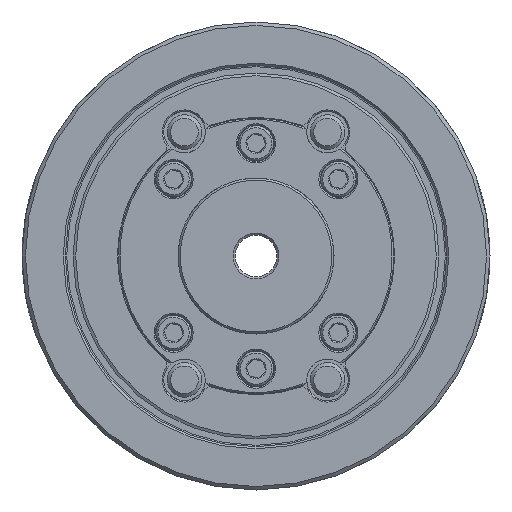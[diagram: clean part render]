
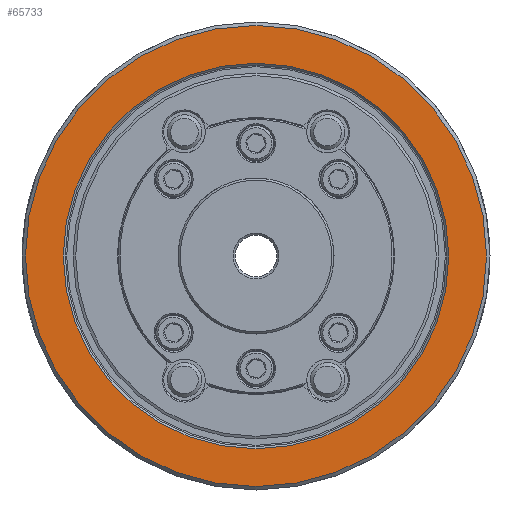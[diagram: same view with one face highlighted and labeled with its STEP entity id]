
A CAD part, left-side view. The second image highlights one B-rep face of the part: STEP entity #65733.
In plain terms, the highlighted planar face has unit normal (-1, 0, 0).
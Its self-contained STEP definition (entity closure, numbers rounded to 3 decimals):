
#1295 = CIRCLE ( 'NONE', #48478, 55.6 ) ;
#1601 = ORIENTED_EDGE ( 'NONE', *, *, #44136, .T. ) ;
#3773 = DIRECTION ( 'NONE',  ( 1., 0., 0. ) ) ;
#7657 = AXIS2_PLACEMENT_3D ( 'NONE', #26669, #16371, #63080 ) ;
#8949 = CARTESIAN_POINT ( 'NONE',  ( -60., 0., 0. ) ) ;
#12144 = VERTEX_POINT ( 'NONE', #48893 ) ;
#14664 = DIRECTION ( 'NONE',  ( 0., 0., -1. ) ) ;
#15646 = EDGE_LOOP ( 'NONE', ( #53505 ) ) ;
#16371 = DIRECTION ( 'NONE',  ( 1., 0., 0. ) ) ;
#19831 = CARTESIAN_POINT ( 'NONE',  ( -60., 0., 0. ) ) ;
#26669 = CARTESIAN_POINT ( 'NONE',  ( -60., -55.6, 0. ) ) ;
#28544 = DIRECTION ( 'NONE',  ( 0., 0., -1. ) ) ;
#42124 = FACE_BOUND ( 'NONE', #65495, .T. ) ;
#42468 = FACE_OUTER_BOUND ( 'NONE', #15646, .T. ) ;
#43390 = VERTEX_POINT ( 'NONE', #64355 ) ;
#44136 = EDGE_CURVE ( 'NONE', #12144, #12144, #1295, .T. ) ;
#48478 = AXIS2_PLACEMENT_3D ( 'NONE', #19831, #62742, #14664 ) ;
#48636 = PLANE ( 'NONE',  #7657 ) ;
#48893 = CARTESIAN_POINT ( 'NONE',  ( -60., 0., -55.6 ) ) ;
#49479 = EDGE_CURVE ( 'NONE', #43390, #43390, #52048, .T. ) ;
#52048 = CIRCLE ( 'NONE', #66293, 66.5 ) ;
#53505 = ORIENTED_EDGE ( 'NONE', *, *, #49479, .F. ) ;
#62742 = DIRECTION ( 'NONE',  ( 1., 0., 0. ) ) ;
#63080 = DIRECTION ( 'NONE',  ( 0., 0., -1. ) ) ;
#64355 = CARTESIAN_POINT ( 'NONE',  ( -60., 0., -66.5 ) ) ;
#65495 = EDGE_LOOP ( 'NONE', ( #1601 ) ) ;
#65733 = ADVANCED_FACE ( 'NONE', ( #42468, #42124 ), #48636, .F. ) ;
#66293 = AXIS2_PLACEMENT_3D ( 'NONE', #8949, #3773, #28544 ) ;
